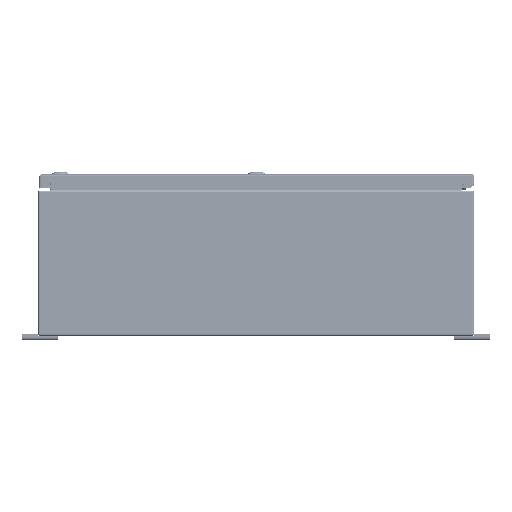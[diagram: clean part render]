
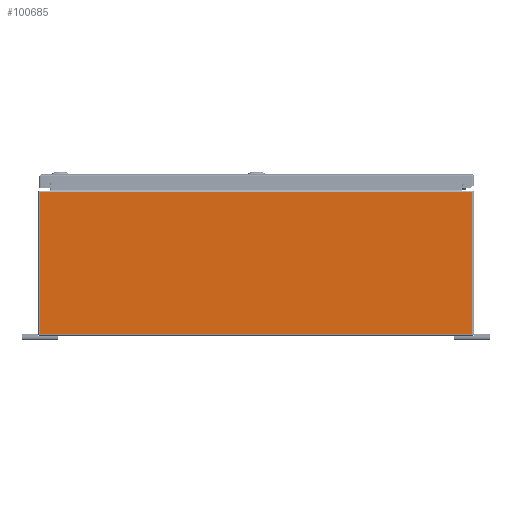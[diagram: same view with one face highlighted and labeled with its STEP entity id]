
A CAD part, left-side view. The second image highlights one B-rep face of the part: STEP entity #100685.
In plain terms, the highlighted planar face has unit normal (-1, 0, 0).
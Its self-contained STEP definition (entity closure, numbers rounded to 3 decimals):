
#5878=PLANE('',#107941);
#8487=LINE('',#144327,#16473);
#8488=LINE('',#144331,#16474);
#8489=LINE('',#144333,#16475);
#8490=LINE('',#144335,#16476);
#8491=LINE('',#144337,#16477);
#8492=LINE('',#144338,#16478);
#16473=VECTOR('',#117532,0.394);
#16474=VECTOR('',#117537,0.394);
#16475=VECTOR('',#117538,0.394);
#16476=VECTOR('',#117539,0.394);
#16477=VECTOR('',#117540,0.394);
#16478=VECTOR('',#117541,0.394);
#26084=FACE_OUTER_BOUND('',#32068,.T.);
#32068=EDGE_LOOP('',(#68605,#68606,#68607,#68608,#68609,#68610));
#42905=VERTEX_POINT('',#144309);
#42912=VERTEX_POINT('',#144326);
#42913=VERTEX_POINT('',#144330);
#42914=VERTEX_POINT('',#144332);
#42915=VERTEX_POINT('',#144334);
#42916=VERTEX_POINT('',#144336);
#52910=EDGE_CURVE('',#42905,#42912,#8487,.T.);
#52912=EDGE_CURVE('',#42913,#42905,#8488,.T.);
#52913=EDGE_CURVE('',#42913,#42914,#8489,.T.);
#52914=EDGE_CURVE('',#42915,#42914,#8490,.T.);
#52915=EDGE_CURVE('',#42916,#42915,#8491,.T.);
#52916=EDGE_CURVE('',#42916,#42912,#8492,.T.);
#68605=ORIENTED_EDGE('',*,*,#52912,.F.);
#68606=ORIENTED_EDGE('',*,*,#52913,.T.);
#68607=ORIENTED_EDGE('',*,*,#52914,.F.);
#68608=ORIENTED_EDGE('',*,*,#52915,.F.);
#68609=ORIENTED_EDGE('',*,*,#52916,.T.);
#68610=ORIENTED_EDGE('',*,*,#52910,.F.);
#100685=ADVANCED_FACE('',(#26084),#5878,.F.);
#107941=AXIS2_PLACEMENT_3D('',#144329,#117535,#117536);
#117532=DIRECTION('',(0.,0.,-1.));
#117535=DIRECTION('center_axis',(1.,0.,0.));
#117536=DIRECTION('ref_axis',(0.,0.,-1.));
#117537=DIRECTION('',(0.,-1.,0.));
#117538=DIRECTION('',(0.,1.,0.));
#117539=DIRECTION('',(0.,-1.,0.));
#117540=DIRECTION('',(0.,0.,1.));
#117541=DIRECTION('',(0.,-1.,0.));
#144309=CARTESIAN_POINT('',(-27.,-14.901,9.901));
#144326=CARTESIAN_POINT('',(-27.,-14.901,0.099));
#144327=CARTESIAN_POINT('',(-27.,-14.901,5.));
#144329=CARTESIAN_POINT('Origin',(-27.,0.,5.));
#144330=CARTESIAN_POINT('',(-27.,-14.126,9.901));
#144331=CARTESIAN_POINT('',(-27.,-7.475,9.901));
#144332=CARTESIAN_POINT('',(-27.,14.126,9.901));
#144333=CARTESIAN_POINT('',(-27.,7.455,9.901));
#144334=CARTESIAN_POINT('',(-27.,14.901,9.901));
#144335=CARTESIAN_POINT('',(-27.,-7.475,9.901));
#144336=CARTESIAN_POINT('',(-27.,14.901,0.099));
#144337=CARTESIAN_POINT('',(-27.,14.901,5.));
#144338=CARTESIAN_POINT('',(-27.,7.5,0.099));
